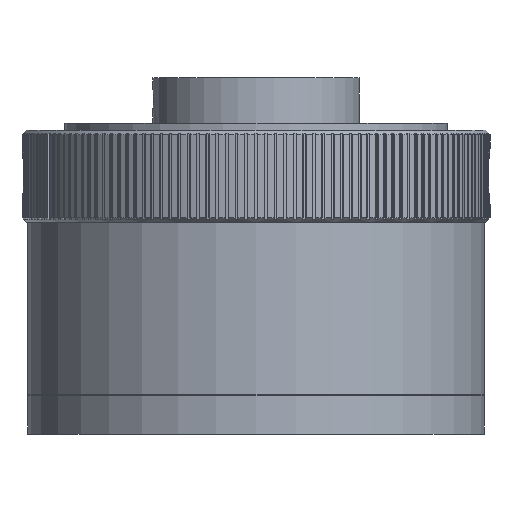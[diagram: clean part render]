
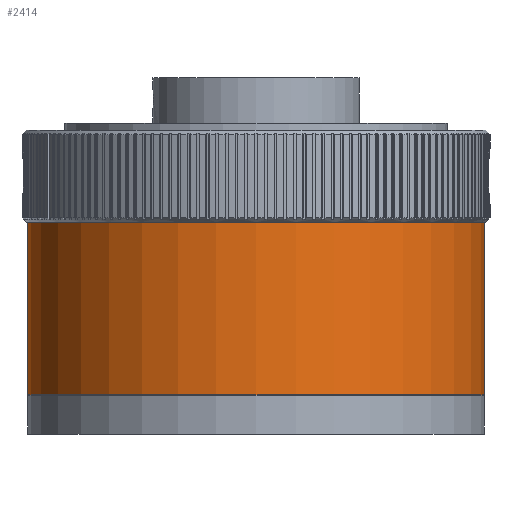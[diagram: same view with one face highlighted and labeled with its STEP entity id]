
A CAD part, front view. The second image highlights one B-rep face of the part: STEP entity #2414.
In plain terms, the highlighted cylindrical face has radius 41.021 mm (diameter 82.042 mm), a partial arc.
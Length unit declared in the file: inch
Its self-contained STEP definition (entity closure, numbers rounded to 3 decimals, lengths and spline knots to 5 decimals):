
#35 = AXIS2_PLACEMENT_3D ( 'NONE', #25387, #9178, #28085 ) ;
#514 = VECTOR ( 'NONE', #23572, 39.37008 ) ;
#1705 = CIRCLE ( 'NONE', #6883, 1.615 ) ;
#2414 = ADVANCED_FACE ( 'NONE', ( #26212 ), #25352, .T. ) ;
#2619 = CARTESIAN_POINT ( 'NONE',  ( 0., 0., 0. ) ) ;
#4644 = CARTESIAN_POINT ( 'NONE',  ( 1.615, 0., 0. ) ) ;
#4792 = CARTESIAN_POINT ( 'NONE',  ( 1.615, 0., -1.021 ) ) ;
#5195 = VECTOR ( 'NONE', #10445, 39.37008 ) ;
#5273 = DIRECTION ( 'NONE',  ( 0., 0., 1. ) ) ;
#5373 = DIRECTION ( 'NONE',  ( 0., 0., 1. ) ) ;
#6883 = AXIS2_PLACEMENT_3D ( 'NONE', #21466, #5273, #24196 ) ;
#9178 = DIRECTION ( 'NONE',  ( 0., 0., 1. ) ) ;
#9948 = ORIENTED_EDGE ( 'NONE', *, *, #22950, .F. ) ;
#10445 = DIRECTION ( 'NONE',  ( 0., 0., 1. ) ) ;
#10786 = ORIENTED_EDGE ( 'NONE', *, *, #22859, .T. ) ;
#12392 = LINE ( 'NONE', #26644, #5195 ) ;
#12750 = CIRCLE ( 'NONE', #35, 1.615 ) ;
#14371 = VERTEX_POINT ( 'NONE', #29946 ) ;
#16122 = DIRECTION ( 'NONE',  ( 1., 0., 0. ) ) ;
#20374 = ORIENTED_EDGE ( 'NONE', *, *, #27193, .T. ) ;
#21466 = CARTESIAN_POINT ( 'NONE',  ( 0., 0., -2.241 ) ) ;
#22107 = LINE ( 'NONE', #4644, #514 ) ;
#22363 = VERTEX_POINT ( 'NONE', #4792 ) ;
#22859 = EDGE_CURVE ( 'NONE', #29681, #22363, #22107, .T. ) ;
#22950 = EDGE_CURVE ( 'NONE', #14371, #26572, #12392, .T. ) ;
#23572 = DIRECTION ( 'NONE',  ( 0., 0., 1. ) ) ;
#24196 = DIRECTION ( 'NONE',  ( 1., 0., 0. ) ) ;
#25352 = CYLINDRICAL_SURFACE ( 'NONE', #33620, 1.615 ) ;
#25387 = CARTESIAN_POINT ( 'NONE',  ( 0., 0., -1.021 ) ) ;
#25434 = EDGE_CURVE ( 'NONE', #26572, #22363, #12750, .T. ) ;
#26212 = FACE_OUTER_BOUND ( 'NONE', #30379, .T. ) ;
#26388 = CARTESIAN_POINT ( 'NONE',  ( 1.615, 0., -2.241 ) ) ;
#26572 = VERTEX_POINT ( 'NONE', #34324 ) ;
#26644 = CARTESIAN_POINT ( 'NONE',  ( -1.615, 0., 0. ) ) ;
#27193 = EDGE_CURVE ( 'NONE', #14371, #29681, #1705, .T. ) ;
#28085 = DIRECTION ( 'NONE',  ( 1., 0., 0. ) ) ;
#29518 = ORIENTED_EDGE ( 'NONE', *, *, #25434, .F. ) ;
#29681 = VERTEX_POINT ( 'NONE', #26388 ) ;
#29946 = CARTESIAN_POINT ( 'NONE',  ( -1.615, 0., -2.241 ) ) ;
#30379 = EDGE_LOOP ( 'NONE', ( #9948, #20374, #10786, #29518 ) ) ;
#33620 = AXIS2_PLACEMENT_3D ( 'NONE', #2619, #5373, #16122 ) ;
#34324 = CARTESIAN_POINT ( 'NONE',  ( -1.615, 0., -1.021 ) ) ;
